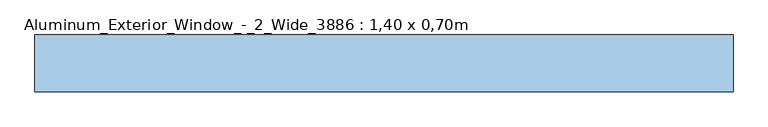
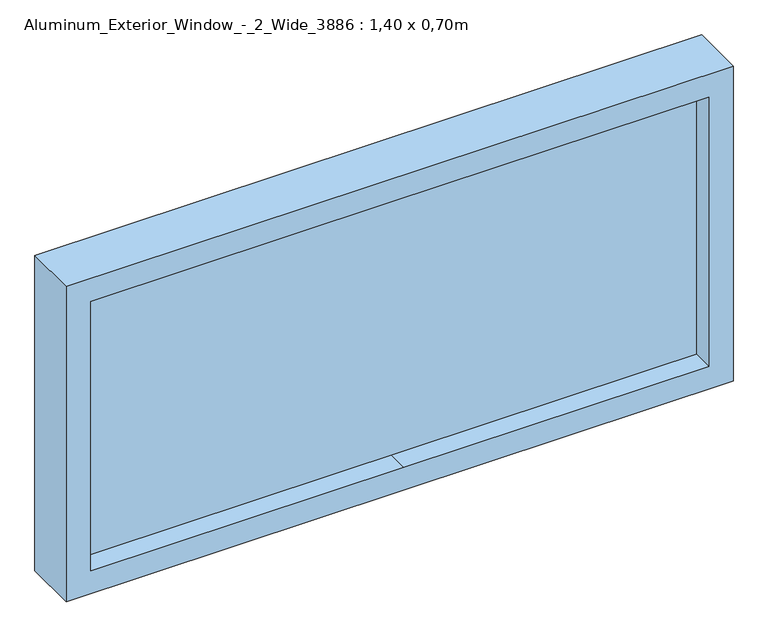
"""IFC4 building model written with IfcOpenShell, lengths in millimetres: window geometry, Aluminum_Exterior_Window_-_2_Wide_3886 : 1,40 x 0,70m."""

import ifcopenshell
import ifcopenshell.guid

model = None  # the IFC model being written
_history = None  # IfcOwnerHistory: only IFC2X3 demands one
_inside = {}  # id of a spatial element -> (the spatial element, [elements in it])
_under = {}  # id of a project, library or spatial element -> (it, [spatial elements below it])
_declared = {}  # id of a project -> (the project, [libraries it declares])
_typed = {}  # id of a type object -> (the type object, [elements of that type])
_made_of = {}  # id of a material, layer set ... -> (it, [elements and type objects made of it])


def new_model(schema):
    """Start an empty IFC model of exactly this schema.

    Asked for "IFC4X3", IfcOpenShell would pick the latest addendum, in which some entities
    have other attributes; the version numbers below select the first issue.
    IFC2X3 requires an IfcOwnerHistory on every rooted entity: one is made here for all.
    """
    global model, _history
    if schema == "IFC4X3":
        model = ifcopenshell.file(schema_version=(4, 3, 0, 0))
    else:
        model = ifcopenshell.file(schema=schema)
    _inside.clear()
    _under.clear()
    _declared.clear()
    _typed.clear()
    _made_of.clear()
    _history = None
    if model.schema == "IFC2X3":
        org = make("IfcOrganization", Name="unknown")
        user = make(
            "IfcPersonAndOrganization",
            ThePerson=make("IfcPerson", FamilyName="unknown"),
            TheOrganization=org,
        )
        app = make(
            "IfcApplication",
            ApplicationDeveloper=org,
            Version="unknown",
            ApplicationFullName="unknown",
            ApplicationIdentifier="unknown",
        )
        _history = make(
            "IfcOwnerHistory",
            OwningUser=user,
            OwningApplication=app,
            ChangeAction="ADDED",
            CreationDate=0,
        )
    return model


def make(cls, **values):
    """One entity of the class cls with the attributes given. An attribute that is None is left unset."""
    return model.create_entity(
        cls, **{name: value for name, value in values.items() if value is not None}
    )


def rooted(cls, **values):
    """An entity with a GlobalId (a new one), such as an element, a storey or a relation."""
    return make(cls, GlobalId=ifcopenshell.guid.new(), OwnerHistory=_history, **values)


def si_unit(unit_type, name, prefix=None):
    """IfcSIUnit, for example si_unit("LENGTHUNIT", "METRE", prefix="MILLI")."""
    return make("IfcSIUnit", UnitType=unit_type, Prefix=prefix, Name=name)


def assignment(units):
    """IfcUnitAssignment: the units of a project."""
    return None if units is None else make("IfcUnitAssignment", Units=units)


def point(xyz):
    """IfcCartesianPoint."""
    return None if xyz is None else make("IfcCartesianPoint", Coordinates=xyz)


def direction(xyz):
    """IfcDirection."""
    return None if xyz is None else make("IfcDirection", DirectionRatios=xyz)


def frame(location, z_axis=None, x_axis=None):
    """IfcAxis2Placement3D, a coordinate frame: its origin and axes. An axis left out is left unset."""
    return make(
        "IfcAxis2Placement3D",
        Location=point(location),
        Axis=direction(z_axis),
        RefDirection=direction(x_axis),
    )


def origin():
    """The frame at (0, 0, 0) with its axes left unset."""
    return frame((0.0, 0.0, 0.0))


def place(relative_to, where):
    """IfcLocalPlacement: puts the frame where relative to a parent placement (None: the world)."""
    return make(
        "IfcLocalPlacement", PlacementRelTo=relative_to, RelativePlacement=where
    )


def context(
    kind, dimensions, precision=None, world=None, true_north=None, identifier=None
):
    """IfcGeometricRepresentationContext, for example the 3D "Model" context."""
    return make(
        "IfcGeometricRepresentationContext",
        ContextIdentifier=identifier,
        ContextType=kind,
        CoordinateSpaceDimension=dimensions,
        Precision=precision,
        WorldCoordinateSystem=world,
        TrueNorth=true_north,
    )


def project(units=None, contexts=None):
    """IfcProject with its units and contexts."""
    return rooted(
        "IfcProject",
        Name="project",
        RepresentationContexts=contexts,
        UnitsInContext=assignment(units),
    )


def spatial(cls, under=None, at=None, **own):
    """A site, building, storey or space (cls), placed at a placement, below another one or the project."""
    s = rooted(cls, ObjectPlacement=at, **own)
    if under is not None:
        _under.setdefault(under.id(), (under, []))[1].append(s)
    return s


def polyline(points):
    """IfcPolyline through the points."""
    return make("IfcPolyline", Points=[point(p) for p in points])


def outline(outer, holes=None, kind="AREA"):
    """IfcArbitraryClosedProfileDef: a profile drawn as a closed curve; with holes, ...WithVoids."""
    if holes is None:
        return make("IfcArbitraryClosedProfileDef", ProfileType=kind, OuterCurve=outer)
    return make(
        "IfcArbitraryProfileDefWithVoids",
        ProfileType=kind,
        OuterCurve=outer,
        InnerCurves=holes,
    )


def extrude(swept, where, along, depth):
    """IfcExtrudedAreaSolid: the profile swept, set in the frame where, extruded along a direction by depth."""
    return make(
        "IfcExtrudedAreaSolid",
        SweptArea=swept,
        Position=where,
        ExtrudedDirection=direction(along),
        Depth=depth,
    )


def shape(context_of_items, identifier, shape_type, items):
    """IfcShapeRepresentation: the items that make up one representation, for example the "Body"."""
    return make(
        "IfcShapeRepresentation",
        ContextOfItems=context_of_items,
        RepresentationIdentifier=identifier,
        RepresentationType=shape_type,
        Items=items,
    )


def source(mapping_origin, context_of_items, identifier, shape_type, items):
    """IfcRepresentationMap: a shape defined once, which mapped items show again and again."""
    return make(
        "IfcRepresentationMap",
        MappingOrigin=mapping_origin,
        MappedRepresentation=shape(context_of_items, identifier, shape_type, items),
    )


def transform(
    local_origin,
    x_axis=None,
    y_axis=None,
    z_axis=None,
    scale=None,
    scale2=None,
    scale3=None,
    uniform=True,
):
    """IfcCartesianTransformationOperator3D, or its non-uniform kind. x_axis, y_axis, z_axis: its Axis1, 2, 3."""
    if uniform:
        return make(
            "IfcCartesianTransformationOperator3D",
            Axis1=direction(x_axis),
            Axis2=direction(y_axis),
            LocalOrigin=point(local_origin),
            Scale=scale,
            Axis3=direction(z_axis),
        )
    return make(
        "IfcCartesianTransformationOperator3DnonUniform",
        Axis1=direction(x_axis),
        Axis2=direction(y_axis),
        LocalOrigin=point(local_origin),
        Scale=scale,
        Axis3=direction(z_axis),
        Scale2=scale2,
        Scale3=scale3,
    )


def mapped(mapping_source, mapping_target):
    """IfcMappedItem: shows the shape of a source again, moved by a transform."""
    return make(
        "IfcMappedItem", MappingSource=mapping_source, MappingTarget=mapping_target
    )


def made_of(thing, what):
    """Note that an element or type object is made of a material, layer set ...; save() writes the relation."""
    if what is not None:
        _made_of.setdefault(what.id(), (what, []))[1].append(thing)
    return thing


def element(
    cls,
    number,
    at=None,
    inside=None,
    cuts=None,
    type_object=None,
    material=None,
    context=None,
    identifier="Body",
    shape_type=None,
    held_by="IfcProductDefinitionShape",
    body=None,
    shapes=None,
    **own,
):
    """One element of the class cls, such as IfcWall. Its Tag is "e" and its number.

    at: its placement. inside: the storey or other place that contains it. cuts: it is an
    opening in that element (IfcRelVoidsElement). A single representation is given by context,
    identifier, shape_type and body (its items); several are given by shapes. held_by: the class
    of the entity that holds the representations. save() writes the other relations.
    """
    e = rooted(cls, Tag="e%d" % number, ObjectPlacement=at, **own)
    if body is not None:
        shapes = [shape(context, identifier, shape_type, body)]
    if shapes is not None:
        e.Representation = make(held_by, Representations=shapes)
    if inside is not None:
        _inside.setdefault(inside.id(), (inside, []))[1].append(e)
    if cuts is not None:
        rooted(
            "IfcRelVoidsElement", RelatingBuildingElement=cuts, RelatedOpeningElement=e
        )
    if type_object is not None:
        _typed.setdefault(type_object.id(), (type_object, []))[1].append(e)
    return made_of(e, material)


def aggregate(whole, parts):
    """IfcRelAggregates: a whole, such as a stair, and the parts it consists of."""
    return rooted("IfcRelAggregates", RelatingObject=whole, RelatedObjects=parts)


def save(model, path):
    """Write the relations noted so far, then the file.

    IfcRelAggregates (storeys below a building ...), IfcRelContainedInSpatialStructure (elements
    in a storey), IfcRelDefinesByType, IfcRelAssociatesMaterial and IfcRelDeclares: one each for
    every whole, place, type object, material and project.
    """
    for whole, parts in _under.values():
        aggregate(whole, parts)
    for where, things in _inside.values():
        rooted(
            "IfcRelContainedInSpatialStructure",
            RelatedElements=things,
            RelatingStructure=where,
        )
    for kind, things in _typed.values():
        rooted("IfcRelDefinesByType", RelatedObjects=things, RelatingType=kind)
    for what, things in _made_of.values():
        rooted("IfcRelAssociatesMaterial", RelatedObjects=things, RelatingMaterial=what)
    for by, libraries in _declared.values():
        rooted("IfcRelDeclares", RelatingContext=by, RelatedDefinitions=libraries)
    model.write(path)


def aluminum_exterior_window_2_wide_3886_1_40_x_0_70m_1044a296(model_context):
    return source(origin(), model_context, "Body", "SweptSolid", [
        extrude(outline(polyline([(1760.0, -1371.6), (1060.0, -1371.6), (1060.0, 28.4), (1760.0, 28.4), (1760.0, -1371.6)]), holes=[polyline([(1709.2, -697.0), (1709.2, -22.4), (1110.8, -22.4), (1110.8, -663.8808837), (1110.8, -1320.8), (1709.2, -1320.8), (1709.2, -697.0)])]), frame((0.0, -38.1424754, 0.0), z_axis=(0.0, 1.0, 0.0), x_axis=(0.0, 0.0, 1.0)), (0.0, 0.0, 1.0), 114.3),
        extrude(outline(polyline([(1709.2, -697.0), (1709.2, -1320.8), (1110.8, -1320.8), (1110.8, -670.891469), (1110.8, -22.4), (1709.2, -22.4), (1709.2, -697.0)])), frame((0.0, 6.3075246, 0.0), z_axis=(0.0, 1.0, 0.0), x_axis=(0.0, 0.0, 1.0)), (0.0, 0.0, 1.0), 25.4),
    ])


if __name__ == "__main__":
    model = new_model("IFC4")
    model_context = context("Model", 3, world=origin())
    ifc_project = project(units=[si_unit("LENGTHUNIT", "METRE", prefix="MILLI")], contexts=[model_context])
    site = spatial("IfcSite", under=ifc_project)
    building = spatial("IfcBuilding", under=site)
    placement = place(None, origin())
    aluminum_exterior_window_2_wide_3886_1_40_x_0_70m_shape = aluminum_exterior_window_2_wide_3886_1_40_x_0_70m_1044a296(model_context)
    element("IfcWindow", 1, ObjectType="Aluminum_Exterior_Window_-_2_Wide_3886 : 1,40 x 0,70m", at=placement, inside=building, context=model_context, shape_type="MappedRepresentation", body=[
        mapped(aluminum_exterior_window_2_wide_3886_1_40_x_0_70m_shape, transform((0.0, 0.0, 0.0), x_axis=(1.0, 0.0, 0.0), y_axis=(0.0, 1.0, 0.0), z_axis=(0.0, 0.0, 1.0))),
    ])
    save(model, "model.ifc")
